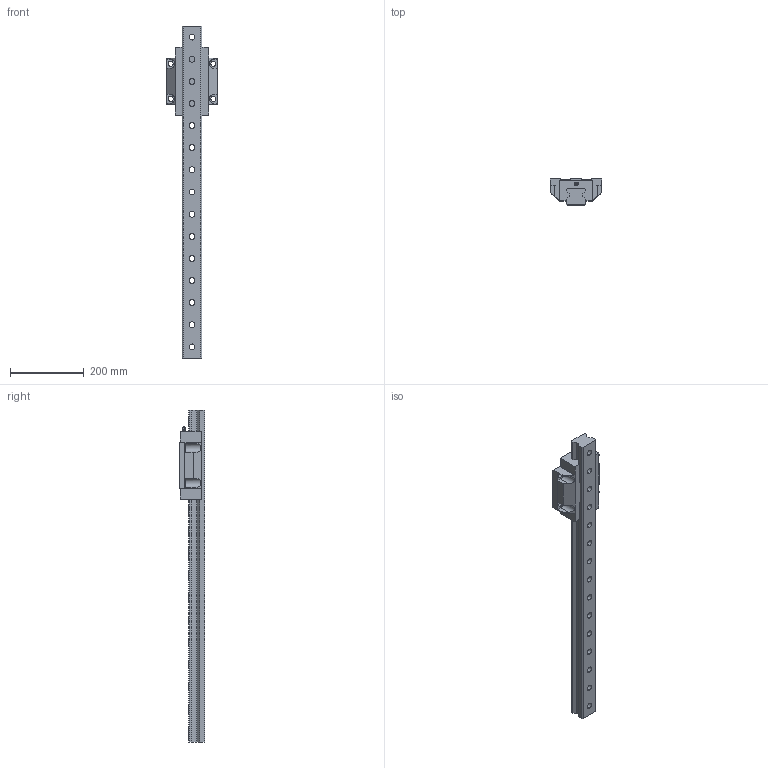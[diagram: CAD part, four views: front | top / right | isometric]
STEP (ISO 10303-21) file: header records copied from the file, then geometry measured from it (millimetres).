
FILE_DESCRIPTION(('STEP AP214'),'1');
FILE_NAME('D:/ModelConvertServices/SVC.ACISConvertServices001/output/34cf56e5-aa32-42ba-b057-f7907eed58ca/1_RGW55CC1R900ZOH.step','2022-07-23T04:36:40',(' '),(' '),'Spatial InterOp 3D',' ',' ');
FILE_SCHEMA(('automotive_design'));
Length unit declared in the file: millimetre
Products named in the file (2): 1; 2
Bounding box: 140 x 70 x 900 mm (x, y, z)
Volume: 2580328.8 mm3; surface area: 319811.8 mm2
Topology: 2 solids, 2 shells, 296 faces, 751 edges, 488 vertices
Faces by surface type: plane 148, cylinder 116, cone 30, sphere 2
Entity records: 11444 total; most frequent: CARTESIAN_POINT 1695, DIRECTION 1565, ORIENTED_EDGE 1498, EDGE_CURVE 749, AXIS2_PLACEMENT_3D 566, VERTEX_POINT 488, LINE 433, VECTOR 433
